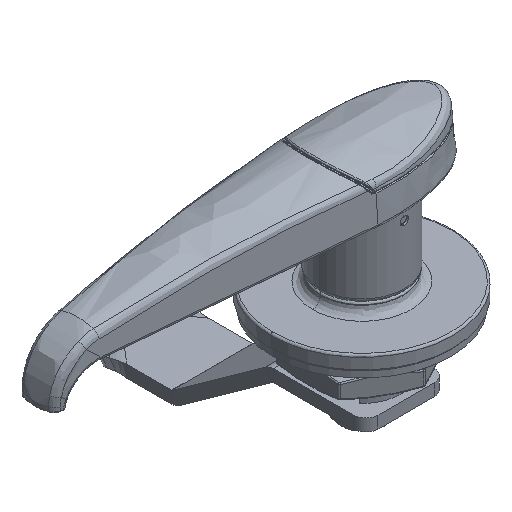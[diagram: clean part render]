
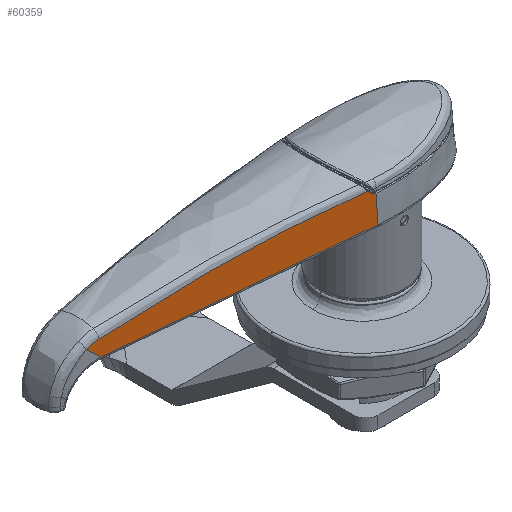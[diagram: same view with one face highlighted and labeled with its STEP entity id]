
A CAD part, isometric view. The second image highlights one B-rep face of the part: STEP entity #60359.
In plain terms, the highlighted planar face has unit normal (-0.094, -0.992, 0.087).
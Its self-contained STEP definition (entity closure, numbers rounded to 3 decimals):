
#596 = B_SPLINE_CURVE_WITH_KNOTS ( 'NONE', 3,
 ( #6489, #40294, #74041, #22556, #83447, #65179 ),
 .UNSPECIFIED., .F., .F.,
 ( 4, 2, 4 ),
 ( 0., 0., 0. ),
 .UNSPECIFIED. ) ;
#821 = CARTESIAN_POINT ( 'NONE',  ( -9.3, -10.621, 32.979 ) ) ;
#1052 = ORIENTED_EDGE ( 'NONE', *, *, #27928, .T. ) ;
#6151 = CARTESIAN_POINT ( 'NONE',  ( -9.309, -10.621, 32.979 ) ) ;
#6489 = CARTESIAN_POINT ( 'NONE',  ( -7.475, -10.905, 31.726 ) ) ;
#6820 = VERTEX_POINT ( 'NONE', #24720 ) ;
#6914 = VERTEX_POINT ( 'NONE', #23072 ) ;
#7738 = FACE_OUTER_BOUND ( 'NONE', #57133, .T. ) ;
#8838 = DIRECTION ( 'NONE',  ( -0.094, -0.992, 0.087 ) ) ;
#9346 = VERTEX_POINT ( 'NONE', #19235 ) ;
#11806 = CARTESIAN_POINT ( 'NONE',  ( -8.502, -10.726, 32.647 ) ) ;
#12350 = CARTESIAN_POINT ( 'NONE',  ( -8.28, -10.775, 32.332 ) ) ;
#13828 = VECTOR ( 'NONE', #101749, 1000. ) ;
#14265 = VERTEX_POINT ( 'NONE', #40508 ) ;
#15723 = CARTESIAN_POINT ( 'NONE',  ( -7.784, -10.866, 31.83 ) ) ;
#16177 = DIRECTION ( 'NONE',  ( 0.727, -0.128, -0.675 ) ) ;
#16593 = CARTESIAN_POINT ( 'NONE',  ( -81.652, -4.511, 24.5 ) ) ;
#17012 = LINE ( 'NONE', #108964, #13828 ) ;
#17050 = CARTESIAN_POINT ( 'NONE',  ( -9.309, -10.621, 32.979 ) ) ;
#19140 = AXIS2_PLACEMENT_3D ( 'NONE', #16593, #8838, #58670 ) ;
#19235 = CARTESIAN_POINT ( 'NONE',  ( -7.85, -10.857, 31.857 ) ) ;
#19361 = B_SPLINE_CURVE_WITH_KNOTS ( 'NONE', 3,
 ( #821, #60085, #93898, #60609 ),
 .UNSPECIFIED., .F., .F.,
 ( 4, 4 ),
 ( 0.002, 0.118 ),
 .UNSPECIFIED. ) ;
#20136 = ORIENTED_EDGE ( 'NONE', *, *, #108423, .T. ) ;
#20399 = VERTEX_POINT ( 'NONE', #6151 ) ;
#20552 = ORIENTED_EDGE ( 'NONE', *, *, #77821, .T. ) ;
#20652 = VECTOR ( 'NONE', #67209, 1000. ) ;
#21154 = VERTEX_POINT ( 'NONE', #80127 ) ;
#22556 = CARTESIAN_POINT ( 'NONE',  ( -7.584, -10.889, 31.785 ) ) ;
#23072 = CARTESIAN_POINT ( 'NONE',  ( -8.723, -10.678, 32.962 ) ) ;
#24010 = CARTESIAN_POINT ( 'NONE',  ( -7.644, -10.882, 31.8 ) ) ;
#24720 = CARTESIAN_POINT ( 'NONE',  ( -7.461, -11.469, 25.315 ) ) ;
#24764 = CARTESIAN_POINT ( 'NONE',  ( -7.475, -10.905, 31.726 ) ) ;
#25983 = ORIENTED_EDGE ( 'NONE', *, *, #101730, .T. ) ;
#26161 = VECTOR ( 'NONE', #16177, 1000. ) ;
#27928 = EDGE_CURVE ( 'NONE', #14265, #49636, #57460, .T. ) ;
#28614 = EDGE_CURVE ( 'NONE', #102170, #6914, #19361, .T. ) ;
#30343 = EDGE_CURVE ( 'NONE', #95431, #21154, #56015, .T. ) ;
#30915 = ORIENTED_EDGE ( 'NONE', *, *, #75995, .F. ) ;
#31533 = CARTESIAN_POINT ( 'NONE',  ( -7.85, -10.857, 31.857 ) ) ;
#32439 = B_SPLINE_CURVE_WITH_KNOTS ( 'NONE', 3,
 ( #88247, #12350, #11806, #46119 ),
 .UNSPECIFIED., .F., .F.,
 ( 4, 4 ),
 ( 0., 0.001 ),
 .UNSPECIFIED. ) ;
#33431 = CARTESIAN_POINT ( 'NONE',  ( -7.468, -11.54, 24.5 ) ) ;
#34683 = CARTESIAN_POINT ( 'NONE',  ( -73.216, -4.989, 28.15 ) ) ;
#36517 = CARTESIAN_POINT ( 'NONE',  ( -70.294, -5.184, 29.086 ) ) ;
#37995 = ORIENTED_EDGE ( 'NONE', *, *, #87517, .T. ) ;
#40294 = CARTESIAN_POINT ( 'NONE',  ( -7.502, -10.901, 31.742 ) ) ;
#40508 = CARTESIAN_POINT ( 'NONE',  ( -7.408, -10.911, 31.726 ) ) ;
#41116 = LINE ( 'NONE', #49958, #26161 ) ;
#41432 = CARTESIAN_POINT ( 'NONE',  ( -9.3, -10.621, 32.979 ) ) ;
#41531 = PLANE ( 'NONE',  #19140 ) ;
#42341 = CARTESIAN_POINT ( 'NONE',  ( -9.309, -10.621, 32.979 ) ) ;
#42857 = CARTESIAN_POINT ( 'NONE',  ( -52.408, -6.662, 31.553 ) ) ;
#44973 = VECTOR ( 'NONE', #80202, 1000. ) ;
#45248 = ORIENTED_EDGE ( 'NONE', *, *, #55909, .F. ) ;
#46119 = CARTESIAN_POINT ( 'NONE',  ( -8.723, -10.678, 32.962 ) ) ;
#48174 = ORIENTED_EDGE ( 'NONE', *, *, #82004, .T. ) ;
#48781 = EDGE_CURVE ( 'NONE', #9346, #81074, #63058, .T. ) ;
#49636 = VERTEX_POINT ( 'NONE', #24764 ) ;
#49958 = CARTESIAN_POINT ( 'NONE',  ( -73.216, -4.989, 28.15 ) ) ;
#50008 = B_SPLINE_CURVE_WITH_KNOTS ( 'NONE', 3,
 ( #67378, #101180, #77862, #34683 ),
 .UNSPECIFIED., .F., .F.,
 ( 4, 4 ),
 ( 0., 1. ),
 .UNSPECIFIED. ) ;
#53249 = B_SPLINE_CURVE_WITH_KNOTS ( 'NONE', 3,
 ( #24010, #101532, #15723, #72886 ),
 .UNSPECIFIED., .F., .F.,
 ( 4, 4 ),
 ( 0., 0. ),
 .UNSPECIFIED. ) ;
#55909 = EDGE_CURVE ( 'NONE', #20399, #102170, #87982, .T. ) ;
#56015 = B_SPLINE_CURVE_WITH_KNOTS ( 'NONE', 3,
 ( #68436, #59015, #58483, #102247 ),
 .UNSPECIFIED., .F., .F.,
 ( 4, 4 ),
 ( 0., 1. ),
 .UNSPECIFIED. ) ;
#57133 = EDGE_LOOP ( 'NONE', ( #1052, #20136, #83887, #87788, #37995, #68289, #45248, #30915, #109240, #20552, #109428, #48174, #25983 ) ) ;
#57460 = LINE ( 'NONE', #72983, #44973 ) ;
#58483 = CARTESIAN_POINT ( 'NONE',  ( -69.975, -5.545, 25.315 ) ) ;
#58670 = DIRECTION ( 'NONE',  ( 0.996, -0.094, 0. ) ) ;
#58907 = CARTESIAN_POINT ( 'NONE',  ( -61.765, -5.875, 30.423 ) ) ;
#59015 = CARTESIAN_POINT ( 'NONE',  ( -70.066, -5.537, 25.314 ) ) ;
#60085 = CARTESIAN_POINT ( 'NONE',  ( -9.108, -10.64, 32.973 ) ) ;
#60359 = ADVANCED_FACE ( 'NONE', ( #7738 ), #41531, .T. ) ;
#60609 = CARTESIAN_POINT ( 'NONE',  ( -8.723, -10.678, 32.962 ) ) ;
#63058 = B_SPLINE_CURVE_WITH_KNOTS ( 'NONE', 3,
 ( #31533, #65835, #73051, #80846 ),
 .UNSPECIFIED., .F., .F.,
 ( 4, 4 ),
 ( 0., 0. ),
 .UNSPECIFIED. ) ;
#63389 = CARTESIAN_POINT ( 'NONE',  ( -73.216, -4.989, 28.15 ) ) ;
#63448 = CARTESIAN_POINT ( 'NONE',  ( -7.644, -10.882, 31.8 ) ) ;
#65179 = CARTESIAN_POINT ( 'NONE',  ( -7.644, -10.882, 31.8 ) ) ;
#65835 = CARTESIAN_POINT ( 'NONE',  ( -7.933, -10.847, 31.891 ) ) ;
#67209 = DIRECTION ( 'NONE',  ( 0.008, 0.087, 0.996 ) ) ;
#67378 = CARTESIAN_POINT ( 'NONE',  ( -70.294, -5.184, 29.086 ) ) ;
#67526 = VERTEX_POINT ( 'NONE', #63448 ) ;
#68289 = ORIENTED_EDGE ( 'NONE', *, *, #28614, .F. ) ;
#68436 = CARTESIAN_POINT ( 'NONE',  ( -70.157, -5.529, 25.311 ) ) ;
#72886 = CARTESIAN_POINT ( 'NONE',  ( -7.85, -10.857, 31.857 ) ) ;
#72983 = CARTESIAN_POINT ( 'NONE',  ( -81.592, -3.881, 31.726 ) ) ;
#73051 = CARTESIAN_POINT ( 'NONE',  ( -8.006, -10.835, 31.945 ) ) ;
#73351 = CARTESIAN_POINT ( 'NONE',  ( -9.3, -10.621, 32.979 ) ) ;
#74041 = CARTESIAN_POINT ( 'NONE',  ( -7.528, -10.897, 31.757 ) ) ;
#75848 = VERTEX_POINT ( 'NONE', #63389 ) ;
#75995 = EDGE_CURVE ( 'NONE', #78700, #20399, #105453, .T. ) ;
#76588 = LINE ( 'NONE', #33431, #20652 ) ;
#76610 = CARTESIAN_POINT ( 'NONE',  ( -21.068, -9.477, 33.309 ) ) ;
#77821 = EDGE_CURVE ( 'NONE', #75848, #95431, #41116, .T. ) ;
#77862 = CARTESIAN_POINT ( 'NONE',  ( -72.289, -5.036, 28.613 ) ) ;
#78700 = VERTEX_POINT ( 'NONE', #36517 ) ;
#80127 = CARTESIAN_POINT ( 'NONE',  ( -69.883, -5.554, 25.315 ) ) ;
#80202 = DIRECTION ( 'NONE',  ( -0.996, 0.094, 0. ) ) ;
#80846 = CARTESIAN_POINT ( 'NONE',  ( -8.057, -10.824, 32.017 ) ) ;
#81074 = VERTEX_POINT ( 'NONE', #103535 ) ;
#82004 = EDGE_CURVE ( 'NONE', #21154, #6820, #17012, .T. ) ;
#82928 = CARTESIAN_POINT ( 'NONE',  ( -70.157, -5.529, 25.311 ) ) ;
#83447 = CARTESIAN_POINT ( 'NONE',  ( -7.613, -10.885, 31.794 ) ) ;
#83887 = ORIENTED_EDGE ( 'NONE', *, *, #90585, .T. ) ;
#84639 = CARTESIAN_POINT ( 'NONE',  ( -9.306, -10.621, 32.979 ) ) ;
#87517 = EDGE_CURVE ( 'NONE', #81074, #6914, #32439, .T. ) ;
#87788 = ORIENTED_EDGE ( 'NONE', *, *, #48781, .T. ) ;
#87982 = B_SPLINE_CURVE_WITH_KNOTS ( 'NONE', 3,
 ( #17050, #84639, #102867, #41432 ),
 .UNSPECIFIED., .F., .F.,
 ( 4, 4 ),
 ( 0., 1. ),
 .UNSPECIFIED. ) ;
#88247 = CARTESIAN_POINT ( 'NONE',  ( -8.057, -10.824, 32.017 ) ) ;
#90585 = EDGE_CURVE ( 'NONE', #67526, #9346, #53249, .T. ) ;
#93898 = CARTESIAN_POINT ( 'NONE',  ( -8.915, -10.659, 32.968 ) ) ;
#95431 = VERTEX_POINT ( 'NONE', #82928 ) ;
#97066 = EDGE_CURVE ( 'NONE', #78700, #75848, #50008, .T. ) ;
#100503 = CARTESIAN_POINT ( 'NONE',  ( -70.294, -5.184, 29.086 ) ) ;
#101180 = CARTESIAN_POINT ( 'NONE',  ( -71.315, -5.101, 28.924 ) ) ;
#101532 = CARTESIAN_POINT ( 'NONE',  ( -7.714, -10.874, 31.813 ) ) ;
#101730 = EDGE_CURVE ( 'NONE', #6820, #14265, #76588, .T. ) ;
#101749 = DIRECTION ( 'NONE',  ( 0.996, -0.094, 0. ) ) ;
#102145 = CARTESIAN_POINT ( 'NONE',  ( -32.06, -8.463, 32.996 ) ) ;
#102170 = VERTEX_POINT ( 'NONE', #73351 ) ;
#102247 = CARTESIAN_POINT ( 'NONE',  ( -69.883, -5.554, 25.315 ) ) ;
#102867 = CARTESIAN_POINT ( 'NONE',  ( -9.303, -10.621, 32.979 ) ) ;
#103535 = CARTESIAN_POINT ( 'NONE',  ( -8.057, -10.824, 32.017 ) ) ;
#105453 = B_SPLINE_CURVE_WITH_KNOTS ( 'NONE', 3,
 ( #100503, #58907, #42857, #102145, #76610, #42341 ),
 .UNSPECIFIED., .F., .F.,
 ( 4, 2, 4 ),
 ( 0., 0.5, 1. ),
 .UNSPECIFIED. ) ;
#108423 = EDGE_CURVE ( 'NONE', #49636, #67526, #596, .T. ) ;
#108964 = CARTESIAN_POINT ( 'NONE',  ( -81.645, -4.44, 25.315 ) ) ;
#109240 = ORIENTED_EDGE ( 'NONE', *, *, #97066, .T. ) ;
#109428 = ORIENTED_EDGE ( 'NONE', *, *, #30343, .T. ) ;
